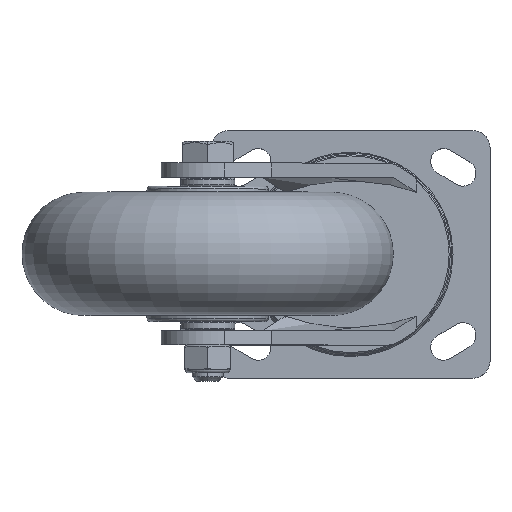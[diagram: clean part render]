
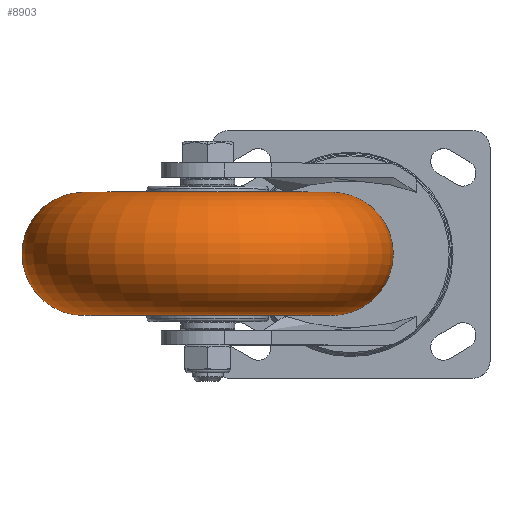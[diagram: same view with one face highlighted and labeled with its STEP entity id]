
A CAD part, top view. The second image highlights one B-rep face of the part: STEP entity #8903.
In plain terms, the highlighted toroidal (fillet/blend) face has major radius 50.927 mm and minor radius 25.273 mm.
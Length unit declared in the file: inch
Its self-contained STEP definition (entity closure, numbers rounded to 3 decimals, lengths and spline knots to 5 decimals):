
#8032=CARTESIAN_POINT('',(0.,0.,0.995));
#8033=DIRECTION('',(0.,0.,1.));
#8034=DIRECTION('',(1.,0.,0.));
#8035=AXIS2_PLACEMENT_3D('',#8032,#8033,#8034);
#8040=CARTESIAN_POINT('',(2.005,0.,0.));
#8041=DIRECTION('',(0.,1.,0.));
#8042=DIRECTION('',(0.,0.,1.));
#8043=AXIS2_PLACEMENT_3D('',#8040,#8041,#8042);
#8048=CARTESIAN_POINT('',(-2.005,0.,0.));
#8049=DIRECTION('',(0.,-1.,0.));
#8050=DIRECTION('',(0.,0.,1.));
#8051=AXIS2_PLACEMENT_3D('',#8048,#8049,#8050);
#8072=CARTESIAN_POINT('',(0.,0.,-0.995));
#8073=DIRECTION('',(0.,0.,1.));
#8074=DIRECTION('',(1.,0.,0.));
#8075=AXIS2_PLACEMENT_3D('',#8072,#8073,#8074);
#8604=CARTESIAN_POINT('',(2.005,0.,0.995));
#8605=CARTESIAN_POINT('',(2.005,0.,-0.995));
#8606=VERTEX_POINT('',#8604);
#8607=VERTEX_POINT('',#8605);
#8608=CARTESIAN_POINT('',(-2.005,0.,0.995));
#8609=CARTESIAN_POINT('',(-2.005,0.,-0.995));
#8610=VERTEX_POINT('',#8608);
#8611=VERTEX_POINT('',#8609);
#8889=CARTESIAN_POINT('',(0.,0.,0.));
#8890=DIRECTION('',(0.,0.,1.));
#8891=DIRECTION('',(-1.,0.,0.));
#8892=AXIS2_PLACEMENT_3D('',#8889,#8890,#8891);
#8893=TOROIDAL_SURFACE('',#8892,2.005,0.995);
#8895=ORIENTED_EDGE('',*,*,#8894,.F.);
#8896=ORIENTED_EDGE('',*,*,#8866,.T.);
#8898=ORIENTED_EDGE('',*,*,#8897,.T.);
#8900=ORIENTED_EDGE('',*,*,#8899,.F.);
#8901=EDGE_LOOP('',(#8895,#8896,#8898,#8900));
#8902=FACE_OUTER_BOUND('',#8901,.F.);
#8036=CIRCLE('',#8035,2.005);
#8044=CIRCLE('',#8043,0.995);
#8052=CIRCLE('',#8051,0.995);
#8076=CIRCLE('',#8075,2.005);
#8866=EDGE_CURVE('',#8606,#8610,#8036,.T.);
#8894=EDGE_CURVE('',#8606,#8607,#8044,.T.);
#8897=EDGE_CURVE('',#8610,#8611,#8052,.T.);
#8899=EDGE_CURVE('',#8607,#8611,#8076,.T.);
#8903=ADVANCED_FACE('',(#8902),#8893,.T.);
